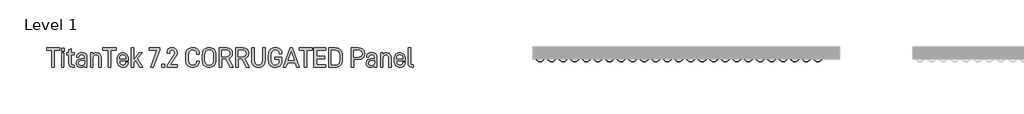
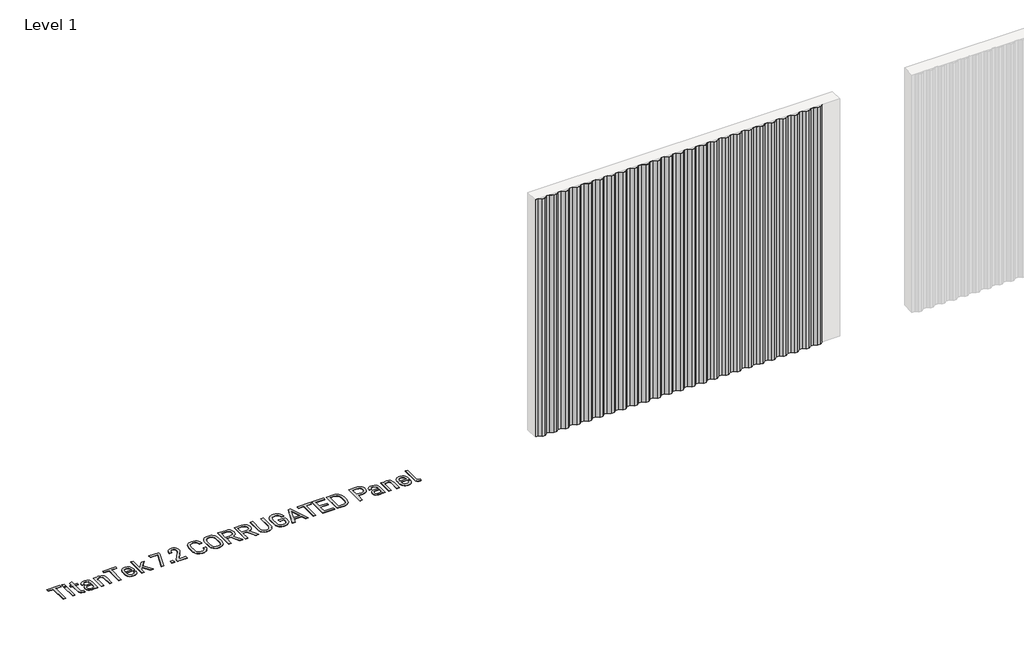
# One storey, part 11 of 33: 2 proxies.
"""IFC4 building model written with IfcOpenShell, lengths in millimetres."""

from ifc_helpers import new_model, si_unit, origin, origin_with_axes, place, context, project, spatial, polyline, outline, extrude, transform, mapped, element, save
from components import titantek_7_2_corrugated_panel_aluminum_slate_gray_cb239071

model = new_model("IFC4")

# Units and contexts
model_context = context("Model", 3, world=origin())
ifc_project = project(units=[si_unit("LENGTHUNIT", "METRE", prefix="MILLI")], contexts=[model_context])

# Site, building, storey
site = spatial("IfcSite", under=ifc_project)
building = spatial("IfcBuilding", under=site)
storey = spatial("IfcBuildingStorey", under=building, Name="Level 1", Elevation=0.0)

# Proxies
placement = place(None, origin())
element("IfcBuildingElementProxy", 1, Name="600mm Arial 2", ObjectType="600mm Arial 2", at=placement, inside=storey, context=model_context, shape_type="SweptSolid", body=[
    extrude(outline(polyline([(-9914.9924556, 7220.4128343), (-9914.9924556, 6952.9873502), (-9954.4439015, 6952.9873502), (-9954.4439015, 7220.4128343), (-10038.8787304, 7220.4128343), (-10038.8787304, 7257.3166776), (-9830.5576267, 7257.3166776), (-9830.5576267, 7220.4128343), (-9914.9924556, 7220.4128343)])), origin_with_axes(), (0.0, 0.0, 1.0), 5.0),
    extrude(outline(polyline([(-9763.1553408, 7253.0221475), (-9763.1553408, 7205.8551051), (-9802.6067867, 7205.8551051), (-9802.6067867, 7253.0221475), (-9763.1553408, 7253.0221475)])), origin_with_axes(), (0.0, 0.0, 1.0), 5.0),
    extrude(outline(polyline([(-9764.0288046, 7178.8505176), (-9764.0288046, 6952.9873502), (-9801.733323, 6952.9873502), (-9801.733323, 7178.8505176), (-9764.0288046, 7178.8505176)])), origin_with_axes(), (0.0, 0.0, 1.0), 5.0),
    extrude(outline(polyline([(-9648.294858, 7012.601251), (-9646.8208879, 7001.5191797), (-9642.3989777, 6993.6034145), (-9635.0291273, 6988.8539554), (-9624.7113368, 6987.2708023), (-9603.2386864, 6987.2708023), (-9603.2386864, 6952.9873502), (-9629.3698101, 6952.9873502), (-9653.1535001, 6956.9543314), (-9671.3688587, 6968.855275), (-9682.6692959, 6987.3981825), (-9686.4361083, 7011.2910554), (-9686.4361083, 7147.1146681), (-9720.2828285, 7147.1146681), (-9720.2828285, 7178.8505176), (-9686.4361083, 7178.8505176), (-9686.4361083, 7226.8910237), (-9648.294858, 7244.8698192), (-9648.294858, 7178.8505176), (-9599.3808881, 7178.8505176), (-9599.3808881, 7147.1146681), (-9648.294858, 7147.1146681), (-9648.294858, 7012.601251)])), origin_with_axes(), (0.0, 0.0, 1.0), 5.0),
    extrude(outline(polyline([(-9422.8684225, 7162.1091291), (-9413.2830677, 7151.3409589), (-9406.4363858, 7138.2526505), (-9400.9590402, 7105.1156196), (-9400.9590402, 6952.9873502), (-9438.2996154, 6952.9873502), (-9438.2996154, 6969.2920069), (-9456.7151427, 6956.8451485), (-9473.7476858, 6952.0410978), (-9493.9829293, 6950.4397476), (-9526.0281305, 6954.7160806), (-9550.1029751, 6967.5450794), (-9565.2248162, 6989.3270816), (-9570.2654299, 7018.5699199), (-9565.1338304, 7046.2114081), (-9549.7390318, 7067.4111012), (-9525.063681, 7080.6222403), (-9493.1094655, 7085.0259534), (-9438.7363472, 7085.0259534), (-9438.7363472, 7105.5523515), (-9441.6296959, 7124.441005), (-9450.3097419, 7138.1616647), (-9464.2305704, 7146.1866129), (-9483.7197302, 7148.8615956), (-9502.2262434, 7146.6051476), (-9515.819523, 7139.8358036), (-9524.1720201, 7129.4816187), (-9526.9561857, 7115.4516073), (-9526.9561857, 7109.8468816), (-9563.8600291, 7109.8468816), (-9563.8600291, 7116.2522824), (-9558.4008807, 7143.2932642), (-9542.0234354, 7164.2927885), (-9516.8203668, 7177.4493362), (-9484.1564621, 7181.8348521), (-9448.6719974, 7176.9034213), (-9434.5600987, 7170.7391329), (-9422.8684225, 7162.1091291)]), holes=[polyline([(-9450.6736851, 6994.5496669), (-9441.7206817, 7009.4531421), (-9438.7363472, 7031.0167784), (-9438.7363472, 7054.9642428), (-9488.8149354, 7054.9642428), (-9507.9538, 7052.7168933), (-9521.6244175, 7045.974845), (-9529.826788, 7034.7380979), (-9532.5609115, 7019.0066518), (-9529.8540837, 7003.0522906), (-9521.7336004, 6991.6563182), (-9508.1994616, 6984.8187348), (-9489.2516673, 6982.5395404), (-9466.104878, 6985.542072), (-9450.6736851, 6994.5496669)])]), origin_with_axes(), (0.0, 0.0, 1.0), 5.0),
    extrude(outline(polyline([(-9306.6977441, 7178.8505176), (-9306.6977441, 7160.4349903), (-9288.2822167, 7173.6825238), (-9271.1222935, 7179.4692211), (-9252.2518372, 7181.3981202), (-9219.9154813, 7175.9389718), (-9206.7907787, 7169.1150363), (-9195.6950595, 7159.5615265), (-9187.0650557, 7147.9790333), (-9180.9007673, 7134.1946835), (-9175.9693365, 7100.0204144), (-9175.9693365, 6952.9873502), (-9213.673855, 6952.9873502), (-9213.673855, 7095.7258843), (-9216.6763866, 7118.1083928), (-9225.6839815, 7133.8671346), (-9240.3781893, 7143.4752358), (-9259.567096, 7146.6779363), (-9278.7378056, 7143.4752358), (-9293.3774219, 7133.8671346), (-9303.0401146, 7117.453295), (-9306.2610122, 7095.7258843), (-9306.2610122, 6952.9873502), (-9343.9655306, 6952.9873502), (-9343.9655306, 7178.8505176), (-9306.6977441, 7178.8505176)])), origin_with_axes(), (0.0, 0.0, 1.0), 5.0),
    extrude(outline(polyline([(-9025.2240514, 7220.4128343), (-9025.2240514, 6952.9873502), (-9064.6754974, 6952.9873502), (-9064.6754974, 7220.4128343), (-9149.1103263, 7220.4128343), (-9149.1103263, 7257.3166776), (-8940.7892225, 7257.3166776), (-8940.7892225, 7220.4128343), (-9025.2240514, 7220.4128343)])), origin_with_axes(), (0.0, 0.0, 1.0), 5.0),
    extrude(outline(polyline([(-8884.5235994, 7047.2486463), (-8881.1025331, 7017.8329349), (-8870.8393341, 6998.8805913), (-8854.3527058, 6988.5900965), (-8832.2613519, 6985.1599316), (-8812.990558, 6987.7257314), (-8798.8513635, 6995.4231306), (-8790.1713175, 7007.1966941), (-8787.2779689, 7022.86445), (-8787.2779689, 7028.3963871), (-8750.3741256, 7028.3963871), (-8750.3741256, 7021.9909863), (-8756.0516399, 6992.8391337), (-8763.1485329, 6980.528754), (-8773.084183, 6969.7287387), (-8799.7976159, 6955.2619954), (-8834.3722226, 6950.4397476), (-8853.3222916, 6951.9387388), (-8870.2843206, 6956.4357123), (-8885.2583098, 6963.9306682), (-8898.2442591, 6974.4236064), (-8908.7371973, 6988.0237099), (-8916.2321532, 7004.8401617), (-8920.7291267, 7024.8729617), (-8922.2281179, 7048.1221101), (-8922.2281179, 7085.8266285), (-8920.7314014, 7108.5321367), (-8916.2412518, 7128.1714231), (-8908.7576691, 7144.7444879), (-8898.2806535, 7158.2513309), (-8885.4971476, 7168.5691214), (-8870.7301511, 7175.9389718), (-8853.979664, 7180.360882), (-8835.2456864, 7181.8348521), (-8816.8438069, 7180.360882), (-8800.2161506, 7175.9389718), (-8785.3627176, 7168.5691214), (-8772.2835079, 7158.2513309), (-8761.9657174, 7144.9082623), (-8754.595867, 7128.389789), (-8750.1739568, 7108.6959111), (-8748.6999867, 7085.8266285), (-8748.6999867, 7055.8377065), (-8884.5235994, 7055.8377065), (-8884.5235994, 7047.2486463)]), holes=[polyline([(-8871.2760659, 7133.4304027), (-8881.2117161, 7115.30603), (-8884.5235994, 7086.7000923), (-8786.4045051, 7086.2633604), (-8786.4045051, 7089.6844267), (-8789.6254027, 7116.9255774), (-8799.2880954, 7134.3038665), (-8814.9012599, 7143.5844188), (-8835.2456864, 7146.6779363), (-8855.60831, 7143.3660529), (-8871.2760659, 7133.4304027)])]), origin_with_axes(), (0.0, 0.0, 1.0), 5.0),
    extrude(outline(polyline([(-8663.391694, 7020.3168474), (-8663.391694, 6952.9873502), (-8701.0962125, 6952.9873502), (-8701.0962125, 7257.3166776), (-8663.391694, 7257.3166776), (-8663.391694, 7070.8321675), (-8575.0990669, 7178.8505176), (-8528.3687564, 7178.8505176), (-8602.5403863, 7091.8680861), (-8517.6688255, 6952.9873502), (-8563.5256722, 6952.9873502), (-8627.7980463, 7062.6798392), (-8663.391694, 7020.3168474)])), origin_with_axes(), (0.0, 0.0, 1.0), 5.0),
    extrude(outline(polyline([(-8254.3195056, 7223.8339006), (-8352.001868, 6952.9873502), (-8392.3267777, 6952.9873502), (-8294.5716266, 7220.4128343), (-8413.2899076, 7220.4128343), (-8413.2899076, 7257.3166776), (-8254.3195056, 7257.3166776), (-8254.3195056, 7223.8339006)])), origin_with_axes(), (0.0, 0.0, 1.0), 5.0),
    extrude(outline(polyline([(-8175.1254592, 7001.0278564), (-8175.1254592, 6952.9873502), (-8221.4190378, 6952.9873502), (-8221.4190378, 7001.0278564), (-8175.1254592, 7001.0278564)])), origin_with_axes(), (0.0, 0.0, 1.0), 5.0),
    extrude(outline(polyline([(-8034.7161617, 7127.4617338), (-8021.1774737, 7153.2471115), (-8016.6645776, 7176.7396469), (-8016.6645776, 7183.1450477), (-8019.3577575, 7200.9418716), (-8027.4372972, 7214.0074335), (-8040.2844931, 7222.3599305), (-8056.5527554, 7225.1440962), (-8072.9302007, 7222.4691135), (-8085.2314818, 7214.4441653), (-8092.9834726, 7200.6143227), (-8095.5674695, 7181.3981202), (-8095.5674695, 7169.4607823), (-8134.9461268, 7169.4607823), (-8134.9461268, 7183.1450477), (-8129.5961613, 7214.7535171), (-8113.546265, 7240.1385572), (-8087.9428589, 7256.1884536), (-8055.6792917, 7261.5384191), (-8033.4969519, 7258.9726193), (-8014.116975, 7251.27522), (-7998.1580645, 7239.3924736), (-7986.2389238, 7223.3971687), (-7978.8690734, 7204.9998386), (-7976.4124566, 7184.0185115), (-7976.4124566, 7176.7396469), (-7978.1229898, 7158.0875565), (-7983.2545893, 7140.7092673), (-8002.9803122, 7105.9890833), (-8083.9940748, 6989.4544617), (-7976.4124566, 6989.4544617), (-7976.4124566, 6952.9873502), (-8134.9461268, 6952.9873502), (-8134.9461268, 6983.849736), (-8034.7161617, 7127.4617338)])), origin_with_axes(), (0.0, 0.0, 1.0), 5.0),
    extrude(outline(polyline([(-7808.925783, 6977.881067), (-7821.8548662, 6994.3676953), (-7831.0899256, 7014.7121217), (-7836.6309612, 7038.9143464), (-7838.4779731, 7066.9743693), (-7838.4779731, 7143.6936018), (-7836.6309612, 7171.9219484), (-7831.0899256, 7196.1924124), (-7821.8548662, 7216.5049939), (-7808.925783, 7232.8596927), (-7792.9168303, 7245.2474103), (-7774.4421621, 7254.09578), (-7753.5017786, 7259.4048019), (-7730.0956798, 7261.1744758), (-7700.7254613, 7258.2811272), (-7675.213041, 7249.6010812), (-7654.1043338, 7235.4436896), (-7637.9452544, 7216.1183042), (-7628.2825617, 7192.7713461), (-7625.0616641, 7166.4036592), (-7625.0616641, 7160.8717222), (-7664.949842, 7160.8717222), (-7664.949842, 7166.4036592), (-7669.2261749, 7190.2965321), (-7682.0551737, 7208.8394396), (-7702.8727263, 7220.4128343), (-7730.0956798, 7224.2706325), (-7759.5477855, 7219.5575677), (-7781.0841261, 7205.4183733), (-7788.7747014, 7194.4136399), (-7794.2679695, 7180.251699), (-7798.662584, 7142.4561948), (-7798.662584, 7065.3002304), (-7794.3498567, 7030.9712854), (-7781.411675, 7006.4506105), (-7771.7080386, 6997.8683742), (-7759.8480387, 6991.7382055), (-7729.6589479, 6986.8340705), (-7702.3268115, 6990.6918687), (-7682.0551737, 7002.2652633), (-7669.2261749, 7020.4806219), (-7664.949842, 7044.2643119), (-7664.949842, 7050.3057694), (-7625.9351279, 7050.3057694), (-7625.9351279, 7044.2643119), (-7627.7002526, 7023.4103649), (-7632.9956265, 7004.9584432), (-7641.8212498, 6988.9085469), (-7654.1771224, 6975.2606758), (-7669.5400759, 6964.0193793), (-7687.3141533, 6955.9898819), (-7707.4993546, 6951.1721834), (-7730.0956798, 6949.5662839), (-7753.5017786, 6951.3359578), (-7774.4421621, 6956.6449797), (-7792.9168303, 6965.4933494), (-7808.925783, 6977.881067)])), origin_with_axes(), (0.0, 0.0, 1.0), 5.0),
    extrude(outline(polyline([(-7548.9247408, 6977.881067), (-7561.4716836, 6994.2039208), (-7570.4337856, 7014.4937558), (-7575.8110468, 7038.7505719), (-7577.6034672, 7066.9743693), (-7577.6034672, 7143.6936018), (-7575.7837511, 7171.7854697), (-7570.3246026, 7196.0104408), (-7561.2260219, 7216.3685152), (-7548.4880089, 7232.8596927), (-7532.8293516, 7245.2474103), (-7514.6048944, 7254.09578), (-7493.8146375, 7259.4048019), (-7470.4585808, 7261.1744758), (-7447.2981437, 7259.4048019), (-7426.6580133, 7254.09578), (-7408.5381899, 7245.2474103), (-7392.9386732, 7232.8596927), (-7380.3598854, 7216.5049939), (-7371.375037, 7196.1924124), (-7365.9841279, 7171.9219484), (-7364.1871582, 7143.6936018), (-7364.1871582, 7066.9743693), (-7366.0068744, 7038.9143464), (-7371.4660228, 7014.7121217), (-7380.5646035, 6994.3676953), (-7393.3026165, 6977.881067), (-7409.0977526, 6965.4933494), (-7427.294914, 6956.6449797), (-7447.8941007, 6951.3359578), (-7470.8953127, 6949.5662839), (-7494.2513694, 6951.3359578), (-7515.0416263, 6956.6449797), (-7533.2660834, 6965.4933494), (-7548.9247408, 6977.881067)]), holes=[polyline([(-7404.075336, 7142.4561948), (-7408.2242888, 7178.2500113), (-7420.6711472, 7203.8170231), (-7430.006291, 7212.7654772), (-7441.4159112, 7219.1572301), (-7470.4585808, 7224.2706325), (-7499.6286306, 7219.5575677), (-7521.0466895, 7205.4183733), (-7528.371047, 7194.2498655), (-7533.6027309, 7180.0333331), (-7537.788078, 7142.4561948), (-7537.788078, 7065.3002304), (-7533.493548, 7029.0696821), (-7528.1253853, 7015.6083319), (-7520.6099577, 7005.2495978), (-7499.7378135, 6991.4379523), (-7470.4585808, 6986.8340705), (-7441.4159112, 6991.7382055), (-7430.006291, 6997.8683742), (-7420.6711472, 7006.4506105), (-7408.2242888, 7030.9712854), (-7404.075336, 7065.3002304), (-7404.075336, 7142.4561948)])]), origin_with_axes(), (0.0, 0.0, 1.0), 5.0),
    extrude(outline(polyline([(-7270.8721145, 7082.842294), (-7270.8721145, 6952.9873502), (-7310.7602923, 6952.9873502), (-7310.7602923, 7257.3166776), (-7196.7732733, 7257.3166776), (-7158.2862769, 7251.6391632), (-7142.3319156, 7244.5422703), (-7128.5703123, 7234.6066202), (-7117.5200861, 7221.8777058), (-7109.6270673, 7206.8377519), (-7104.891256, 7189.4867585), (-7103.3126523, 7169.8247256), (-7107.6981682, 7139.8540007), (-7120.8547159, 7115.0148754), (-7139.9435382, 7097.9641352), (-7164.6006919, 7087.1368241), (-7093.922917, 6952.9873502), (-7139.7797638, 6952.9873502), (-7206.5997404, 7082.842294), (-7270.8721145, 7082.842294)]), holes=[polyline([(-7199.3208759, 7118.4359417), (-7174.9912711, 7121.7478251), (-7157.7585592, 7131.6834753), (-7146.8402624, 7147.5695972), (-7143.2008301, 7169.4607823), (-7146.7310794, 7191.6158263), (-7157.3218273, 7207.5656383), (-7174.8820881, 7217.2010353), (-7199.3208759, 7220.4128343), (-7270.8721145, 7220.4128343), (-7270.8721145, 7118.4359417), (-7199.3208759, 7118.4359417)])]), origin_with_axes(), (0.0, 0.0, 1.0), 5.0),
    extrude(outline(polyline([(-7014.6560819, 7082.842294), (-7014.6560819, 6952.9873502), (-7054.5442597, 6952.9873502), (-7054.5442597, 7257.3166776), (-6940.5572407, 7257.3166776), (-6902.0702443, 7251.6391632), (-6886.115883, 7244.5422703), (-6872.3542797, 7234.6066202), (-6861.3040535, 7221.8777058), (-6853.4110347, 7206.8377519), (-6848.6752234, 7189.4867585), (-6847.0966197, 7169.8247256), (-6851.4821356, 7139.8540007), (-6864.6386833, 7115.0148754), (-6883.7275056, 7097.9641352), (-6908.3846593, 7087.1368241), (-6837.7068844, 6952.9873502), (-6883.5637311, 6952.9873502), (-6950.3837078, 7082.842294), (-7014.6560819, 7082.842294)]), holes=[polyline([(-6943.1048433, 7118.4359417), (-6918.7752385, 7121.7478251), (-6901.5425266, 7131.6834753), (-6890.6242298, 7147.5695972), (-6886.9847975, 7169.4607823), (-6890.5150468, 7191.6158263), (-6901.1057947, 7207.5656383), (-6918.6660555, 7217.2010353), (-6943.1048433, 7220.4128343), (-7014.6560819, 7220.4128343), (-7014.6560819, 7118.4359417), (-6943.1048433, 7118.4359417)])]), origin_with_axes(), (0.0, 0.0, 1.0), 5.0),
    extrude(outline(polyline([(-6746.4299228, 6963.2505493), (-6767.7569959, 6978.6999393), (-6784.5711731, 7000.1543926), (-6794.8889636, 7025.5576299), (-6798.3282271, 7053.7268358), (-6798.3282271, 7257.3166776), (-6758.0033174, 7257.3166776), (-6758.0033174, 7056.2744384), (-6753.5086186, 7027.4683319), (-6740.024522, 7005.2495978), (-6719.4799267, 6991.4379523), (-6692.0568045, 6986.8340705), (-6665.0158226, 6991.4379523), (-6644.0162984, 7005.2495978), (-6630.5322018, 7027.6503035), (-6626.0375029, 7056.2744384), (-6626.0375029, 7257.3166776), (-6586.1493251, 7257.3166776), (-6586.1493251, 7053.7268358), (-6589.5885886, 7025.230081), (-6599.9063791, 6999.7176607), (-6616.1746414, 6978.8091223), (-6637.6108976, 6963.2505493), (-6663.4053739, 6953.642448), (-6692.0204102, 6950.4397476), (-6720.6354465, 6953.642448), (-6746.4299228, 6963.2505493)])), origin_with_axes(), (0.0, 0.0, 1.0), 5.0),
    extrude(outline(polyline([(-6504.5532534, 6977.881067), (-6517.4823365, 6994.3676953), (-6526.717396, 7014.7121217), (-6532.2584316, 7038.9143464), (-6534.1054435, 7066.9743693), (-6534.1054435, 7143.6936018), (-6532.2584316, 7171.9219484), (-6526.717396, 7196.1924124), (-6517.4823365, 7216.5049939), (-6504.5532534, 7232.8596927), (-6488.9218917, 7245.2474103), (-6470.7065331, 7254.09578), (-6449.9071777, 7259.4048019), (-6426.5238252, 7261.1744758), (-6397.2081982, 7258.2811272), (-6371.7139751, 7249.6010812), (-6350.5870707, 7235.5528726), (-6334.3733999, 7216.5550361), (-6324.7652987, 7193.3172609), (-6321.5625983, 7167.277123), (-6321.5625983, 7161.308454), (-6361.3779874, 7161.308454), (-6361.3779874, 7167.277123), (-6365.6725175, 7190.733264), (-6378.5561078, 7208.8394396), (-6399.209886, 7220.4128343), (-6426.0870934, 7224.2706325), (-6455.584692, 7219.5575677), (-6477.111934, 7205.4183733), (-6484.6273616, 7194.086091), (-6489.9955242, 7179.8149672), (-6494.2900543, 7142.4561948), (-6494.2900543, 7065.3002304), (-6490.0046228, 7030.9712854), (-6477.1483283, 7006.4506105), (-6467.5061074, 6997.8683742), (-6455.7211707, 6991.7382055), (-6425.7231501, 6986.8340705), (-6397.299184, 6991.1286005), (-6377.2459122, 7004.0121908), (-6364.7444623, 7026.4856852), (-6360.5773123, 7059.6955047), (-6360.5773123, 7078.1110321), (-6431.2550872, 7078.1110321), (-6431.2550872, 7113.7046798), (-6320.6891345, 7113.7046798), (-6320.6891345, 7065.3002304), (-6322.4861042, 7037.153771), (-6327.8770133, 7013.1289687), (-6336.8618617, 6993.2258234), (-6349.4406495, 6977.4443352), (-6365.1766449, 6965.2476877), (-6383.2691726, 6956.5357967), (-6403.7182327, 6951.3086621), (-6426.5238252, 6949.5662839), (-6449.9071777, 6951.3359578), (-6470.7065331, 6956.6449797), (-6488.9218917, 6965.4933494), (-6504.5532534, 6977.881067)])), origin_with_axes(), (0.0, 0.0, 1.0), 5.0),
    extrude(outline(polyline([(-5927.3392935, 7220.4128343), (-5927.3392935, 6952.9873502), (-5966.7907395, 6952.9873502), (-5966.7907395, 7220.4128343), (-6051.2255684, 7220.4128343), (-6051.2255684, 7257.3166776), (-5842.9044646, 7257.3166776), (-5842.9044646, 7220.4128343), (-5927.3392935, 7220.4128343)])), origin_with_axes(), (0.0, 0.0, 1.0), 5.0),
    extrude(outline(polyline([(-6233.4155484, 7024.1746457), (-6258.2364766, 6952.9873502), (-6300.2355251, 6952.9873502), (-6189.6695724, 7257.3166776), (-6157.5697797, 7257.3166776), (-6046.9310383, 6952.9873502), (-6088.9300868, 6952.9873502), (-6113.8238036, 7024.1746457), (-6233.4155484, 7024.1746457)]), holes=[polyline([(-6173.8016476, 7196.4653699), (-6221.4054219, 7059.2587729), (-6125.8339302, 7059.2587729), (-6173.8016476, 7196.4653699)])]), origin_with_axes(), (0.0, 0.0, 1.0), 5.0),
    extrude(outline(polyline([(-5775.5021788, 7126.1515382), (-5648.6315694, 7126.1515382), (-5648.6315694, 7089.3204835), (-5775.5021788, 7089.3204835), (-5775.5021788, 6989.8184049), (-5627.2317076, 6989.8184049), (-5627.2317076, 6952.9873502), (-5815.3903566, 6952.9873502), (-5815.3903566, 7257.3166776), (-5627.2317076, 7257.3166776), (-5627.2317076, 7220.4128343), (-5775.5021788, 7220.4128343), (-5775.5021788, 7126.1515382)])), origin_with_axes(), (0.0, 0.0, 1.0), 5.0),
    extrude(outline(polyline([(-5476.995943, 7257.3166776), (-5453.8082101, 7255.5470037), (-5433.0861926, 7250.2379818), (-5414.8298904, 7241.3896121), (-5399.0393036, 7229.0018945), (-5386.4605157, 7212.6471956), (-5377.4756673, 7192.3346142), (-5372.0847582, 7168.0641502), (-5370.2877885, 7139.8358036), (-5370.2877885, 7070.3954356), (-5372.0847582, 7042.1716383), (-5377.4756673, 7017.9148221), (-5386.4605157, 6997.6249872), (-5399.0393036, 6981.3021334), (-5414.8298904, 6968.9144158), (-5433.0861926, 6960.066046), (-5453.8082101, 6954.7570242), (-5476.995943, 6952.9873502), (-5582.4666906, 6952.9873502), (-5582.4666906, 7257.3166776), (-5476.995943, 7257.3166776)]), holes=[polyline([(-5476.6319998, 6989.8184049), (-5447.7485554, 6994.7498357), (-5436.4014879, 7000.9141241), (-5427.1175236, 7009.5441279), (-5414.7389046, 7034.2012816), (-5410.6126982, 7068.7212968), (-5410.6126982, 7138.5983966), (-5414.8890312, 7176.0663519), (-5420.2344473, 7190.1464056), (-5427.7180299, 7201.1238432), (-5448.3172167, 7215.5905865), (-5476.6319998, 7220.4128343), (-5542.1417809, 7220.4128343), (-5542.1417809, 6989.8184049), (-5476.6319998, 6989.8184049)])]), origin_with_axes(), (0.0, 0.0, 1.0), 5.0),
    extrude(outline(polyline([(-5042.0109968, 7233.2964245), (-5030.5786301, 7219.8396237), (-5022.4126539, 7203.926206), (-5017.5130682, 7185.5561716), (-5015.879873, 7164.7295204), (-5017.540364, 7145.044741), (-5022.5218369, 7127.5527196), (-5030.8242918, 7112.2534562), (-5042.4477286, 7099.1469507), (-5056.5050358, 7088.6380899), (-5072.9825655, 7081.1317609), (-5091.8803176, 7076.6279634), (-5113.1982922, 7075.1266976), (-5183.8760671, 7075.1266976), (-5183.8760671, 6952.9873502), (-5223.7642449, 6952.9873502), (-5223.7642449, 7257.3166776), (-5113.1982922, 7257.3166776), (-5092.0167963, 7255.8154118), (-5073.0917485, 7251.3116143), (-5056.4231486, 7243.8052853), (-5042.0109968, 7233.2964245)]), holes=[polyline([(-5070.7625118, 7125.2780744), (-5059.516666, 7141.5827311), (-5055.7680508, 7164.7295204), (-5059.625849, 7189.3502798), (-5071.1992437, 7206.7285689), (-5090.2698688, 7216.9917679), (-5115.7458948, 7220.4128343), (-5183.8760671, 7220.4128343), (-5183.8760671, 7112.0305409), (-5115.7458948, 7112.0305409), (-5089.505588, 7115.3424243), (-5070.7625118, 7125.2780744)])]), origin_with_axes(), (0.0, 0.0, 1.0), 5.0),
    extrude(outline(polyline([(-4843.5891488, 7162.1091291), (-4834.003794, 7151.3409589), (-4827.157112, 7138.2526505), (-4821.6797665, 7105.1156196), (-4821.6797665, 6952.9873502), (-4859.0203417, 6952.9873502), (-4859.0203417, 6969.2920069), (-4877.435869, 6956.8451485), (-4894.4684121, 6952.0410978), (-4914.7036556, 6950.4397476), (-4946.7488568, 6954.7160806), (-4970.8237013, 6967.5450794), (-4985.9455425, 6989.3270816), (-4990.9861562, 7018.5699199), (-4985.8545567, 7046.2114081), (-4970.4597581, 7067.4111012), (-4945.7844072, 7080.6222403), (-4913.8301918, 7085.0259534), (-4859.4570735, 7085.0259534), (-4859.4570735, 7105.5523515), (-4862.3504222, 7124.441005), (-4871.0304682, 7138.1616647), (-4884.9512967, 7146.1866129), (-4904.4404565, 7148.8615956), (-4922.9469697, 7146.6051476), (-4936.5402493, 7139.8358036), (-4944.8927463, 7129.4816187), (-4947.676912, 7115.4516073), (-4947.676912, 7109.8468816), (-4984.5807554, 7109.8468816), (-4984.5807554, 7116.2522824), (-4979.1216069, 7143.2932642), (-4962.7441617, 7164.2927885), (-4937.5410931, 7177.4493362), (-4904.8771884, 7181.8348521), (-4869.3927237, 7176.9034213), (-4855.280825, 7170.7391329), (-4843.5891488, 7162.1091291)]), holes=[polyline([(-4871.3944114, 6994.5496669), (-4862.441408, 7009.4531421), (-4859.4570735, 7031.0167784), (-4859.4570735, 7054.9642428), (-4909.5356617, 7054.9642428), (-4928.6745262, 7052.7168933), (-4942.3451437, 7045.974845), (-4950.5475142, 7034.7380979), (-4953.2816377, 7019.0066518), (-4950.57481, 7003.0522906), (-4942.4543267, 6991.6563182), (-4928.9201879, 6984.8187348), (-4909.9723936, 6982.5395404), (-4886.8256043, 6985.542072), (-4871.3944114, 6994.5496669)])]), origin_with_axes(), (0.0, 0.0, 1.0), 5.0),
    extrude(outline(polyline([(-4727.4184704, 7178.8505176), (-4727.4184704, 7160.4349903), (-4709.002943, 7173.6825238), (-4691.8430198, 7179.4692211), (-4672.9725634, 7181.3981202), (-4640.6362076, 7175.9389718), (-4627.511505, 7169.1150363), (-4616.4157858, 7159.5615265), (-4607.785782, 7147.9790333), (-4601.6214936, 7134.1946835), (-4596.6900628, 7100.0204144), (-4596.6900628, 6952.9873502), (-4634.3945813, 6952.9873502), (-4634.3945813, 7095.7258843), (-4637.3971129, 7118.1083928), (-4646.4047078, 7133.8671346), (-4661.0989156, 7143.4752358), (-4680.2878223, 7146.6779363), (-4699.4585319, 7143.4752358), (-4714.0981482, 7133.8671346), (-4723.7608409, 7117.453295), (-4726.9817385, 7095.7258843), (-4726.9817385, 6952.9873502), (-4764.6862569, 6952.9873502), (-4764.6862569, 7178.8505176), (-4727.4184704, 7178.8505176)])), origin_with_axes(), (0.0, 0.0, 1.0), 5.0),
    extrude(outline(polyline([(-4510.2171518, 7047.2486463), (-4506.7960855, 7017.8329349), (-4496.5328864, 6998.8805913), (-4480.0462582, 6988.5900965), (-4457.9549043, 6985.1599316), (-4438.6841103, 6987.7257314), (-4424.5449159, 6995.4231306), (-4415.8648699, 7007.1966941), (-4412.9715213, 7022.86445), (-4412.9715213, 7028.3963871), (-4376.0676779, 7028.3963871), (-4376.0676779, 7021.9909863), (-4381.7451923, 6992.8391337), (-4388.8420852, 6980.528754), (-4398.7777354, 6969.7287387), (-4425.4911683, 6955.2619954), (-4460.065775, 6950.4397476), (-4479.0158439, 6951.9387388), (-4495.977873, 6956.4357123), (-4510.9518622, 6963.9306682), (-4523.9378115, 6974.4236064), (-4534.4307497, 6988.0237099), (-4541.9257056, 7004.8401617), (-4546.4226791, 7024.8729617), (-4547.9216702, 7048.1221101), (-4547.9216702, 7085.8266285), (-4546.4249537, 7108.5321367), (-4541.9348041, 7128.1714231), (-4534.4512215, 7144.7444879), (-4523.9742058, 7158.2513309), (-4511.1906999, 7168.5691214), (-4496.4237035, 7175.9389718), (-4479.6732164, 7180.360882), (-4460.9392387, 7181.8348521), (-4442.5373593, 7180.360882), (-4425.909703, 7175.9389718), (-4411.05627, 7168.5691214), (-4397.9770603, 7158.2513309), (-4387.6592697, 7144.9082623), (-4380.2894194, 7128.389789), (-4375.8675091, 7108.6959111), (-4374.3935391, 7085.8266285), (-4374.3935391, 7055.8377065), (-4510.2171518, 7055.8377065), (-4510.2171518, 7047.2486463)]), holes=[polyline([(-4496.9696183, 7133.4304027), (-4506.9052684, 7115.30603), (-4510.2171518, 7086.7000923), (-4412.0980575, 7086.2633604), (-4412.0980575, 7089.6844267), (-4415.3189551, 7116.9255774), (-4424.9816478, 7134.3038665), (-4440.5948123, 7143.5844188), (-4460.9392387, 7146.6779363), (-4481.3018623, 7143.3660529), (-4496.9696183, 7133.4304027)])]), origin_with_axes(), (0.0, 0.0, 1.0), 5.0),
    extrude(outline(polyline([(-4311.7953038, 6968.855275), (-4323.0411496, 6988.362632), (-4326.7897648, 7014.2753899), (-4326.7897648, 7257.3166776), (-4289.0852464, 7257.3166776), (-4289.0852464, 7016.0223174), (-4287.7022621, 7002.6110094), (-4283.5533093, 6994.112935), (-4276.5655993, 6989.6364333), (-4265.9384571, 6988.1442661), (-4244.1018634, 6988.1442661), (-4244.1018634, 6952.9873502), (-4268.9227916, 6952.9873502), (-4293.7983112, 6956.9543314), (-4311.7953038, 6968.855275)])), origin_with_axes(), (0.0, 0.0, 1.0), 5.0),
])
titantek_7_2_corrugated_panel_aluminum_slate_gray_shape = titantek_7_2_corrugated_panel_aluminum_slate_gray_cb239071(model_context)
element("IfcBuildingElementProxy", 2, Name="TitanTek 7.2 CORRUGATED Panel : Aluminum Slate Gray", ObjectType="TitanTek 7.2 CORRUGATED Panel : Aluminum Slate Gray", at=placement, inside=storey, context=model_context, shape_type="MappedRepresentation", body=[
    mapped(titantek_7_2_corrugated_panel_aluminum_slate_gray_shape, transform((-2360.5897817, 7078.6095025, 0.0), x_axis=(1.0, 0.0, 0.0), y_axis=(0.0, 1.0, 0.0), z_axis=(0.0, 0.0, 1.0))),
])

save(model, "model.ifc")
